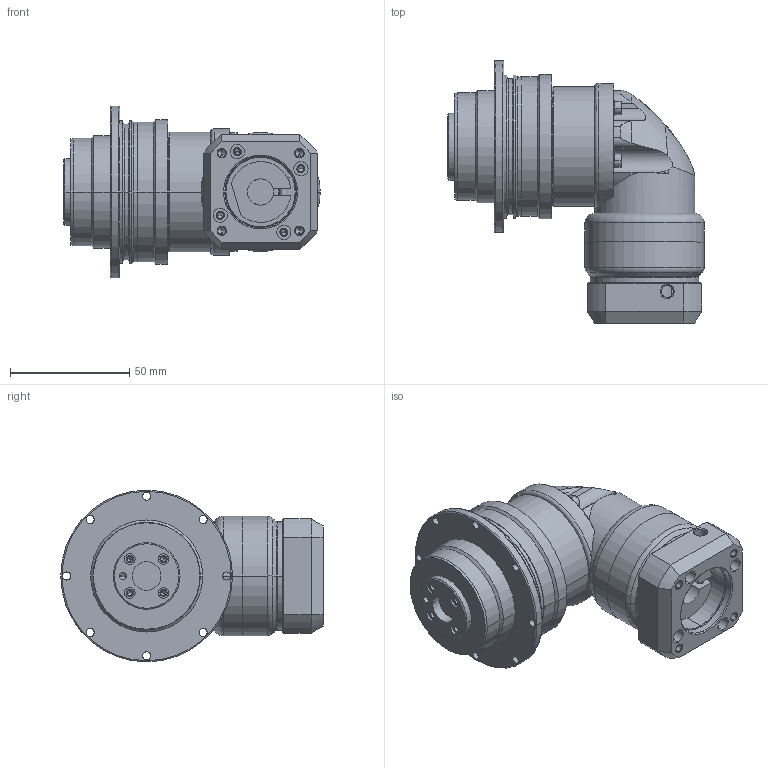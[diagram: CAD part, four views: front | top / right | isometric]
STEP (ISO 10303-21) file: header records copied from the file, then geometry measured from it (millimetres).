
FILE_DESCRIPTION((''),'2;1');
FILE_NAME('ADR0471-P0403100302_ASM','2008-08-28T',('d00080'),(''),'PRO/ENGINEER BY PARAMETRIC TECHNOLOGY CORPORATION, 2006170','PRO/ENGINEER BY PARAMETRIC TECHNOLOGY CORPORATION, 2006170','');
FILE_SCHEMA(('CONFIG_CONTROL_DESIGN'));
Length unit declared in the file: millimetre
Products named in the file (11): AD047-1; P1306100001; 220110414; ADR-PLATE-1_ASM; P100200001; 222000001; 220100406; HOUSING-SET-1_ASM; P1305100001; P0403100302; ADR0471-P0403100302_ASM
Assembly tree (21 placements, depth 3):
  ADR0471-P0403100302_ASM
    AD047-1
    ADR-PLATE-1_ASM
      P1306100001
      220110414  x6
    HOUSING-SET-1_ASM
      P100200001
      222000001  x4
      220100406  x4
    P1305100001
    P0403100302
Bounding box: 107.5 x 110 x 72 mm (x, y, z)
Volume: 251683.6 mm3; surface area: 66345.2 mm2
Topology: 20 solids, 47 shells, 910 faces, 2074 edges, 1250 vertices
Faces by surface type: cylinder 388, plane 266, cone 184, torus 55, bspline 17
Entity records: 19710 total; most frequent: CARTESIAN_POINT 4469, DIRECTION 3477, ORIENTED_EDGE 2800, AXIS2_PLACEMENT_3D 1471, EDGE_CURVE 1454, VERTEX_POINT 922, CIRCLE 794, EDGE_LOOP 778
